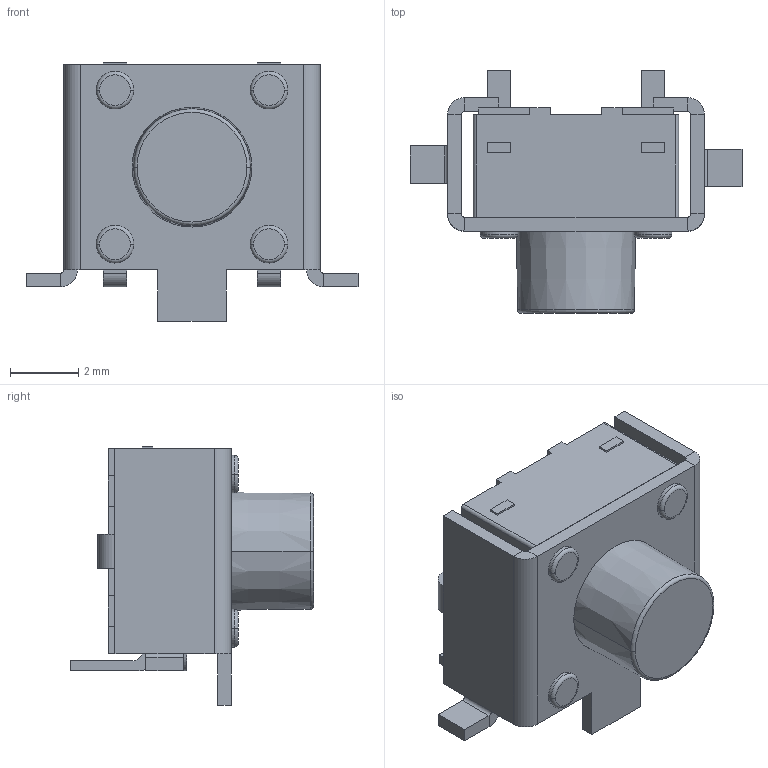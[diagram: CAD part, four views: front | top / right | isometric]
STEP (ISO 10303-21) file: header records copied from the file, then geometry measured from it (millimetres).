
FILE_DESCRIPTION((''),'2;1');
FILE_NAME('JQD7566XL-B0601-01G-1-101_ASM','2026-05-25T14:28:11',('Admin'),(''),'CREO PARAMETRIC BY PTC INC, 2019224','CREO PARAMETRIC BY PTC INC, 2019224','');
FILE_SCHEMA(('AUTOMOTIVE_DESIGN { 1 0 10303 214 1 1 1 1 }'));
Length unit declared in the file: millimetre
Products named in the file (3): JQD7566XL-B0601-01G-1-101_01; JQD7566XL-B0601-01G-1-101_02; JQD7566XL-B0601-01G-1-101_ASM
Assembly tree (2 placements, depth 2):
  JQD7566XL-B0601-01G-1-101_ASM
    JQD7566XL-B0601-01G-1-101_01
    JQD7566XL-B0601-01G-1-101_02
Bounding box: 9.7 x 7.1 x 7.55 mm (x, y, z)
Volume: 170.1 mm3; surface area: 386 mm2
Topology: 2 solids, 2 shells, 173 faces, 420 edges, 274 vertices
Faces by surface type: plane 115, cylinder 46, torus 10, cone 2
Entity records: 6141 total; most frequent: DIRECTION 904, CARTESIAN_POINT 865, ORIENTED_EDGE 820, EDGE_CURVE 410, VECTOR 304, LINE 304, AXIS2_PLACEMENT_3D 300, PRESENTATION_STYLE_ASSIGNMENT 266
